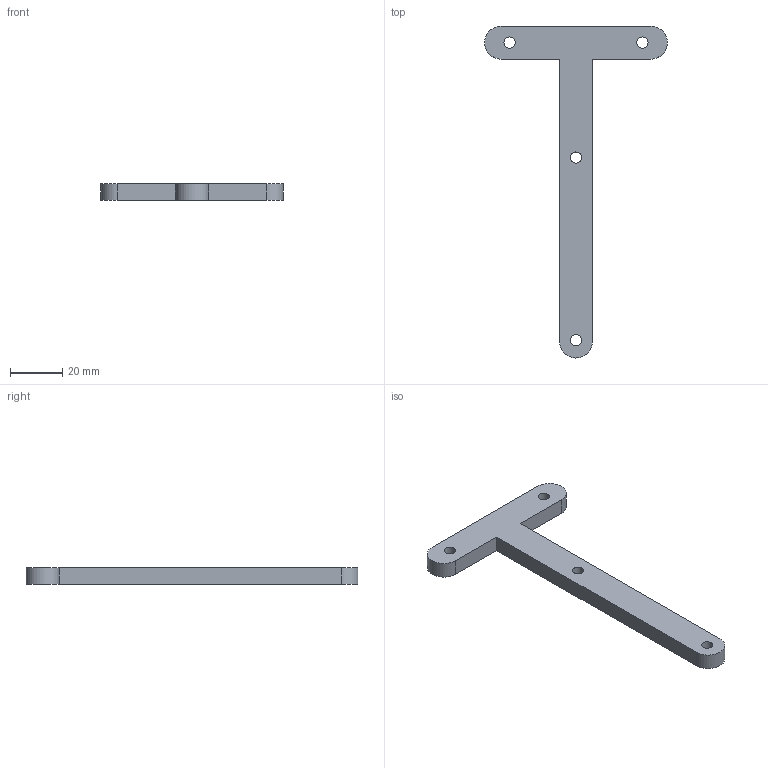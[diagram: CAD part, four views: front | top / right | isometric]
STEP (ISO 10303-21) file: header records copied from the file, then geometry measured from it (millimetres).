
FILE_DESCRIPTION(/* description */ (''),/* implementation_level */ '2;1');
FILE_NAME(/* name */ 'C:\Users\Mark\Desktop\Inventor Projects\Trammel_Projects\Trammel1\Instructables\handle.stp',/* time_stamp */ '2016-02-26T08:44:08-05:00',/* author */ ('Mark'),/* organization */ (''),/* preprocessor_version */ 'ST-DEVELOPER v16.1',/* originating_system */ 'Autodesk Inventor 2016',/* authorisation */ '');
FILE_SCHEMA (('AUTOMOTIVE_DESIGN { 1 0 10303 214 3 1 1 }'));
Length unit declared in the file: inch
Products named in the file (1): handle
Bounding box: 69.85 x 127 x 6.35 mm (x, y, z)
Volume: 14149.1 mm3; surface area: 7197.1 mm2
Topology: 1 solids, 1 shells, 14 faces, 40 edges, 28 vertices
Faces by surface type: cylinder 7, plane 7
Full cylindrical faces by diameter (mm): 4.318 x4
Entity records: 456 total; most frequent: DIRECTION 76, CARTESIAN_POINT 71, ORIENTED_EDGE 64, EDGE_CURVE 32, AXIS2_PLACEMENT_3D 29, EDGE_LOOP 26, VERTEX_POINT 24, LINE 18
